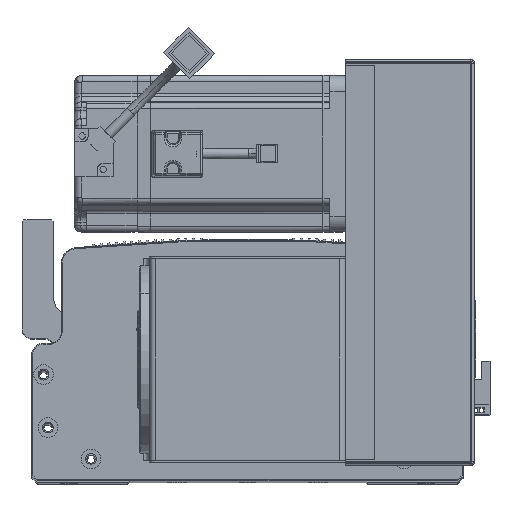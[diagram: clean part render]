
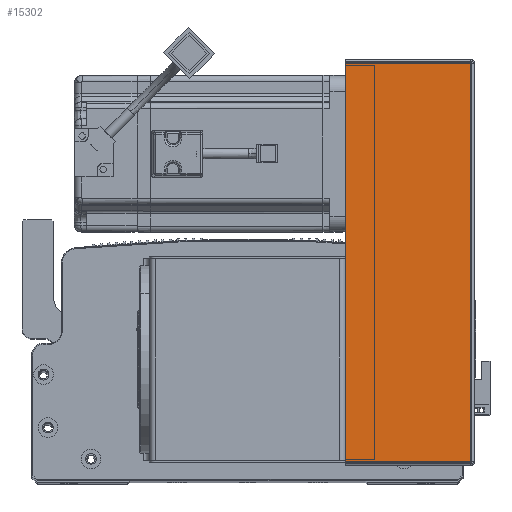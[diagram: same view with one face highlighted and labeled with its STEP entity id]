
A CAD part, top view. The second image highlights one B-rep face of the part: STEP entity #15302.
In plain terms, the highlighted planar face has unit normal (0, 0, 1) as drawn and (0, -1, 0) by its records, which use the part's own axes.
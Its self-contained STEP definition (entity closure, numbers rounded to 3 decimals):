
#2224 = CARTESIAN_POINT ( 'NONE',  ( 0., -1.5, 0. ) ) ;
#3727 = VERTEX_POINT ( 'NONE', #64557 ) ;
#4517 = CARTESIAN_POINT ( 'NONE',  ( 0.737, -1.5, -0.707 ) ) ;
#7190 = EDGE_CURVE ( 'NONE', #30297, #13674, #78607, .T. ) ;
#8595 = DIRECTION ( 'NONE',  ( 0., 1., 0. ) ) ;
#10154 = AXIS2_PLACEMENT_3D ( 'NONE', #2224, #8595, #59536 ) ;
#10269 = DIRECTION ( 'NONE',  ( 0., 0., 1. ) ) ;
#11699 = VECTOR ( 'NONE', #10269, 1000. ) ;
#13674 = VERTEX_POINT ( 'NONE', #4517 ) ;
#13913 = ORIENTED_EDGE ( 'NONE', *, *, #17253, .F. ) ;
#15302 = ADVANCED_FACE ( 'NONE', ( #26430 ), #40387, .F. ) ;
#15868 = LINE ( 'NONE', #18541, #81558 ) ;
#17253 = EDGE_CURVE ( 'NONE', #13674, #63992, #15868, .T. ) ;
#18338 = DIRECTION ( 'NONE',  ( 0., 0., 1. ) ) ;
#18541 = CARTESIAN_POINT ( 'NONE',  ( 0., -1.5, -0.707 ) ) ;
#21812 = CARTESIAN_POINT ( 'NONE',  ( 64.5, -1.5, -0.707 ) ) ;
#24428 = LINE ( 'NONE', #51138, #53259 ) ;
#24912 = ORIENTED_EDGE ( 'NONE', *, *, #72363, .T. ) ;
#25880 = EDGE_CURVE ( 'NONE', #3727, #63992, #62487, .T. ) ;
#26430 = FACE_OUTER_BOUND ( 'NONE', #75560, .T. ) ;
#30297 = VERTEX_POINT ( 'NONE', #41637 ) ;
#35359 = CARTESIAN_POINT ( 'NONE',  ( 64.5, -1.5, 0. ) ) ;
#40387 = PLANE ( 'NONE',  #10154 ) ;
#41637 = CARTESIAN_POINT ( 'NONE',  ( 0.737, -1.5, -203.293 ) ) ;
#43623 = CARTESIAN_POINT ( 'NONE',  ( 0.737, -1.5, 0. ) ) ;
#51138 = CARTESIAN_POINT ( 'NONE',  ( 0., -1.5, -203.293 ) ) ;
#53259 = VECTOR ( 'NONE', #56981, 1000. ) ;
#56981 = DIRECTION ( 'NONE',  ( 1., 0., 0. ) ) ;
#57683 = VECTOR ( 'NONE', #18338, 1000. ) ;
#59536 = DIRECTION ( 'NONE',  ( -1., 0., 0. ) ) ;
#62487 = LINE ( 'NONE', #35359, #11699 ) ;
#63992 = VERTEX_POINT ( 'NONE', #21812 ) ;
#64083 = DIRECTION ( 'NONE',  ( 1., 0., 0. ) ) ;
#64557 = CARTESIAN_POINT ( 'NONE',  ( 64.5, -1.5, -203.293 ) ) ;
#72363 = EDGE_CURVE ( 'NONE', #30297, #3727, #24428, .T. ) ;
#74560 = ORIENTED_EDGE ( 'NONE', *, *, #7190, .F. ) ;
#75560 = EDGE_LOOP ( 'NONE', ( #74560, #24912, #81326, #13913 ) ) ;
#78607 = LINE ( 'NONE', #43623, #57683 ) ;
#81326 = ORIENTED_EDGE ( 'NONE', *, *, #25880, .T. ) ;
#81558 = VECTOR ( 'NONE', #64083, 1000. ) ;
